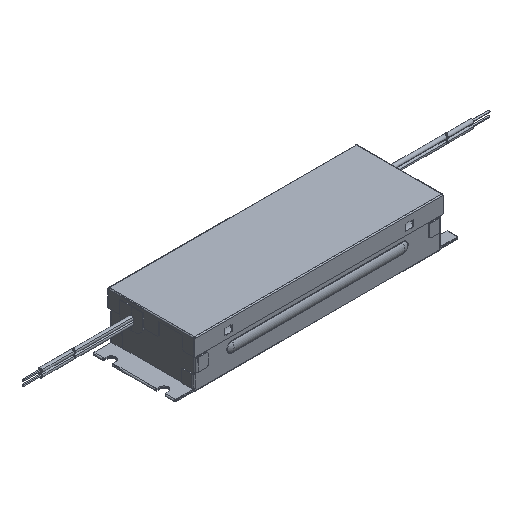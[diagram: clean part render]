
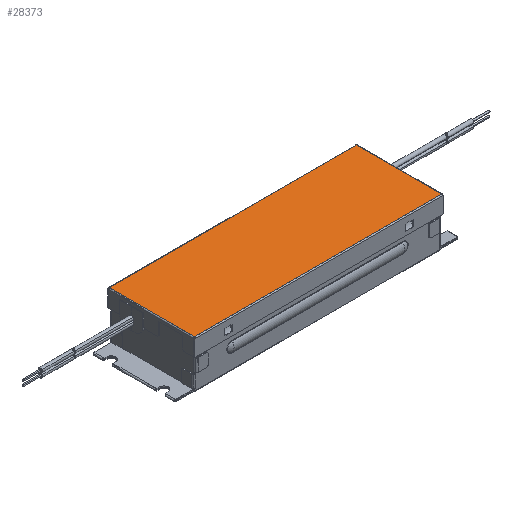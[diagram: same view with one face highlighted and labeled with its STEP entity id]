
A CAD part, isometric view. The second image highlights one B-rep face of the part: STEP entity #28373.
In plain terms, the highlighted planar face has unit normal (0, 0, 1).
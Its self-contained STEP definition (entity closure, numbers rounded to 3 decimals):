
#25091=CARTESIAN_POINT('',(136.596,-35.865,25.4));
#25829=DIRECTION('',(-1.,0.,0.));
#25830=VECTOR('',#25829,128.986);
#25831=CARTESIAN_POINT('',(136.596,-35.865,25.4));
#25832=LINE('',#25831,#25830);
#25843=DIRECTION('',(0.,1.,0.));
#25844=VECTOR('',#25843,44.38);
#25845=CARTESIAN_POINT('',(7.61,-35.865,25.4));
#25846=LINE('',#25845,#25844);
#25857=CARTESIAN_POINT('',(136.59,8.515,25.4));
#25865=DIRECTION('',(1.,0.,0.));
#25866=VECTOR('',#25865,128.986);
#25867=CARTESIAN_POINT('',(7.604,8.515,25.4));
#25868=LINE('',#25867,#25866);
#25879=DIRECTION('',(0.,-1.,0.));
#25880=VECTOR('',#25879,44.38);
#25881=CARTESIAN_POINT('',(136.59,8.515,25.4));
#25882=LINE('',#25881,#25880);
#27078=VERTEX_POINT('',#25857);
#27118=VERTEX_POINT('',#25091);
#27253=CARTESIAN_POINT('',(7.604,8.515,25.4));
#27254=VERTEX_POINT('',#27253);
#27385=CARTESIAN_POINT('',(7.61,-35.865,25.4));
#27386=VERTEX_POINT('',#27385);
#28360=CARTESIAN_POINT('',(7.6,-36.375,25.4));
#28361=DIRECTION('',(0.,0.,1.));
#28362=DIRECTION('',(0.,-1.,0.));
#28363=AXIS2_PLACEMENT_3D('',#28360,#28361,#28362);
#28364=PLANE('',#28363);
#28365=ORIENTED_EDGE('',*,*,#28337,.T.);
#28366=ORIENTED_EDGE('',*,*,#28350,.T.);
#28368=ORIENTED_EDGE('',*,*,#28367,.T.);
#28370=ORIENTED_EDGE('',*,*,#28369,.T.);
#28371=EDGE_LOOP('',(#28365,#28366,#28368,#28370));
#28372=FACE_OUTER_BOUND('',#28371,.F.);
#28337=EDGE_CURVE('',#27118,#27386,#25832,.T.);
#28350=EDGE_CURVE('',#27386,#27254,#25846,.T.);
#28367=EDGE_CURVE('',#27254,#27078,#25868,.T.);
#28369=EDGE_CURVE('',#27078,#27118,#25882,.T.);
#28373=ADVANCED_FACE('',(#28372),#28364,.T.);
